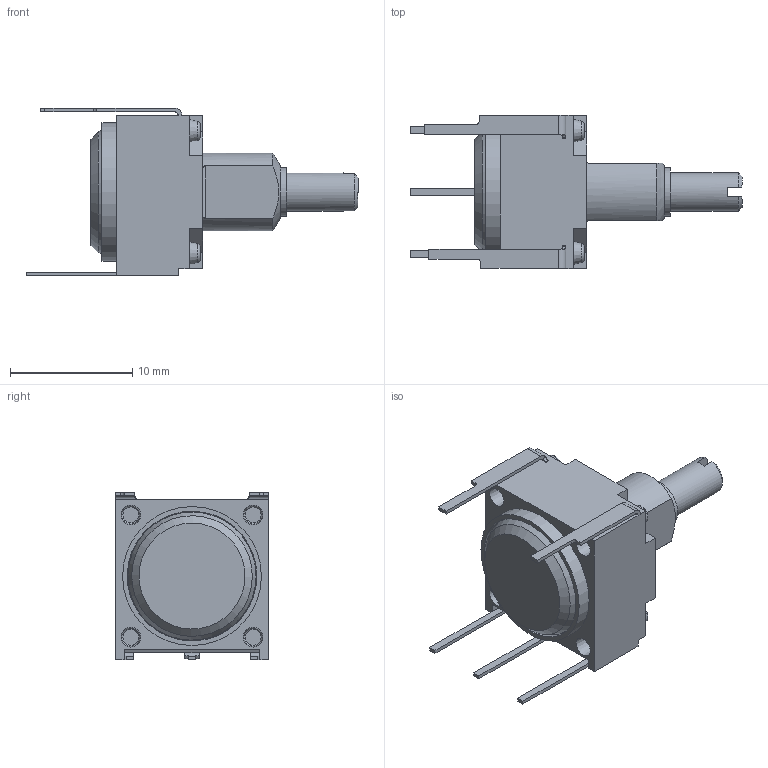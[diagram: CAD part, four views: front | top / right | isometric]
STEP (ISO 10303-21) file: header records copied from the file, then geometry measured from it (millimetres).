
FILE_DESCRIPTION(/* description */ (' '),/* implementation_level */ '2;1');
FILE_NAME(/* name */ 'P11S1A0BBSW20',/* time_stamp */ '2025-01-22T21:43:18+01:00',/* author */ (' '),/* organization */ (' '),/* preprocessor_version */ 'ST-DEVELOPER v19.4',/* originating_system */ 'Solid Edge',/* authorisation */ 'Unknown');
FILE_SCHEMA (('AUTOMOTIVE_DESIGN {1 0 10303 214 3 1 1}'));
Length unit declared in the file: millimetre
Products named in the file (1): P11S1A0BBSW20
Bounding box: 27.14 x 12.5 x 13.71 mm (x, y, z)
Volume: 870.3 mm3; surface area: 1882 mm2
Topology: 1 solids, 5 shells, 290 faces, 773 edges, 501 vertices
Faces by surface type: plane 172, cylinder 79, cone 28, torus 7, bspline 4
Full cylindrical faces by diameter (mm): 1.3 x4, 1.5 x4, 1.55 x4, 2.55 x1, 2.6 x1, 2.66 x1, 3.17 x1, 4 x1, 5.25 x1, 7.42 x1, 7.44 x1, 8.4 x1, 9.17 x1, 9.65 x1, 10.6 x1, 11.35 x1
Entity records: 10683 total; most frequent: CARTESIAN_POINT 1700, DIRECTION 1443, ORIENTED_EDGE 1380, EDGE_CURVE 690, AXIS2_PLACEMENT_3D 524, VERTEX_POINT 469, LINE 395, VECTOR 395
